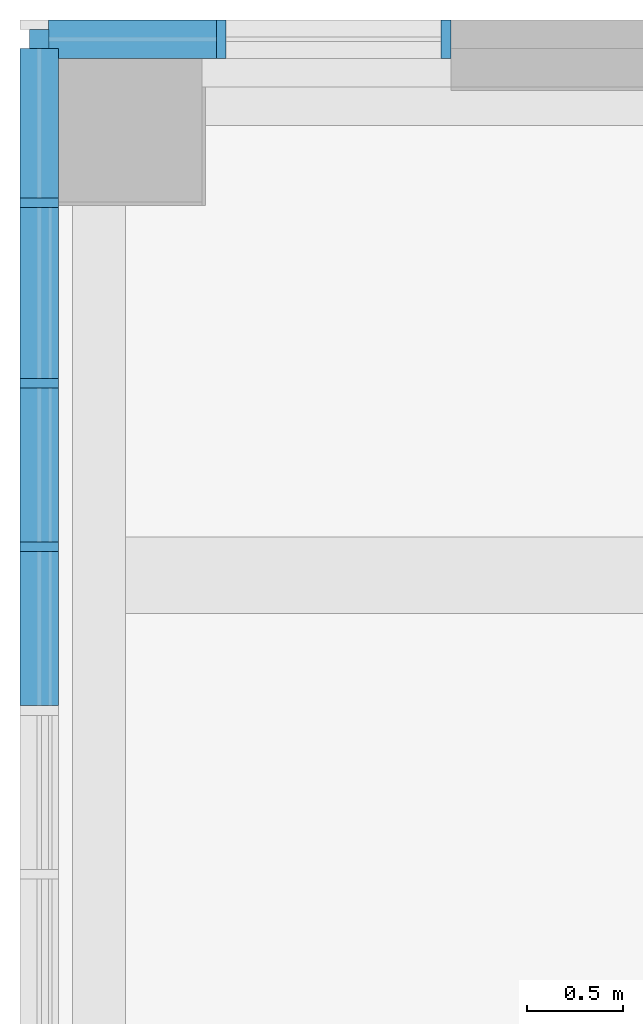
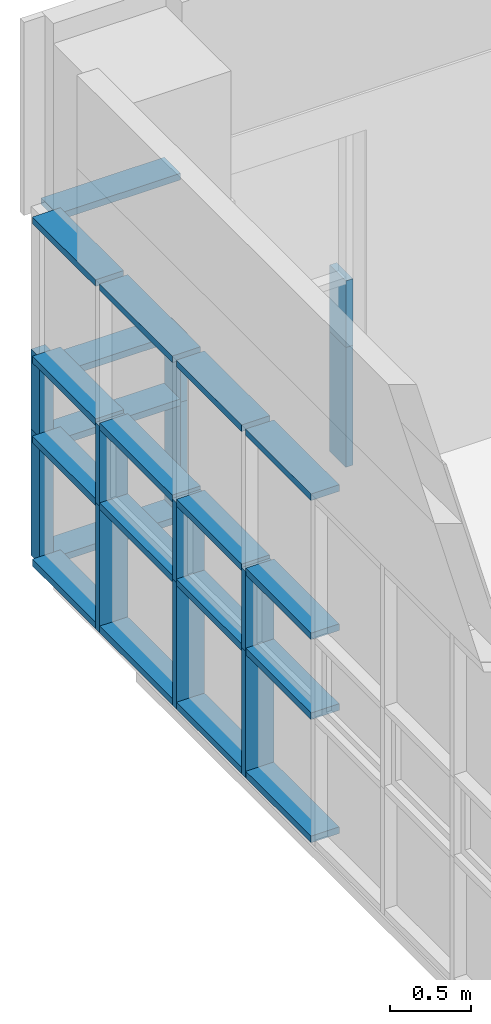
# One storey, part 27 of 76: 32 members, 2 elements without a shape of their own.
"""IFC2X3 building model written with IfcOpenShell, lengths in millimetres."""

from ifc_helpers import new_model, entity, si_unit, converted_unit, derived_unit, direction, frame, origin, origin_2d_with_axis, place, context, subcontext, project, spatial, rectangle, extrude, source, transform, mapped, material, type_object, type_shapes, element, aggregate, save


model = new_model("IFC2X3")

# Units and contexts
model_context = context("Model", 3, precision=0.01, world=origin(), true_north=direction((6.123031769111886e-17, 1.0)))
body_context = subcontext(model_context, "Body", "Model", "MODEL_VIEW")
ifc_project = project(units=[si_unit("LENGTHUNIT", "METRE", prefix="MILLI"), si_unit("AREAUNIT", "SQUARE_METRE"), si_unit("VOLUMEUNIT", "CUBIC_METRE"), converted_unit("PLANEANGLEUNIT", "DEGREE", entity("IfcRatioMeasure", 0.017453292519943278), si_unit("PLANEANGLEUNIT", "RADIAN"), dimensions=[0, 0, 0, 0, 0, 0, 0]), si_unit("MASSUNIT", "GRAM", prefix="KILO"), derived_unit("MASSDENSITYUNIT", [(si_unit("MASSUNIT", "GRAM", prefix="KILO"), 1), (si_unit("LENGTHUNIT", "METRE"), -3)]), derived_unit("MOMENTOFINERTIAUNIT", [(si_unit("LENGTHUNIT", "METRE"), 4)]), si_unit("TIMEUNIT", "SECOND"), si_unit("FREQUENCYUNIT", "HERTZ"), si_unit("THERMODYNAMICTEMPERATUREUNIT", "DEGREE_CELSIUS"), derived_unit("THERMALTRANSMITTANCEUNIT", [(si_unit("MASSUNIT", "GRAM", prefix="KILO"), 1), (si_unit("THERMODYNAMICTEMPERATUREUNIT", "KELVIN"), -1), (si_unit("TIMEUNIT", "SECOND"), -3)]), derived_unit("VOLUMETRICFLOWRATEUNIT", [(si_unit("LENGTHUNIT", "METRE"), 3), (si_unit("TIMEUNIT", "SECOND"), -1)]), derived_unit("MASSFLOWRATEUNIT", [(si_unit("MASSUNIT", "GRAM", prefix="KILO"), 1), (si_unit("TIMEUNIT", "SECOND"), -1)]), derived_unit("ROTATIONALFREQUENCYUNIT", [(si_unit("TIMEUNIT", "SECOND"), -1)]), si_unit("ELECTRICCURRENTUNIT", "AMPERE"), si_unit("ELECTRICVOLTAGEUNIT", "VOLT"), si_unit("POWERUNIT", "WATT"), si_unit("FORCEUNIT", "NEWTON", prefix="KILO"), si_unit("ILLUMINANCEUNIT", "LUX"), si_unit("LUMINOUSFLUXUNIT", "LUMEN"), si_unit("LUMINOUSINTENSITYUNIT", "CANDELA"), derived_unit("USERDEFINED", [(si_unit("MASSUNIT", "GRAM", prefix="KILO"), -1), (si_unit("LENGTHUNIT", "METRE"), -2), (si_unit("TIMEUNIT", "SECOND"), 3), (si_unit("LUMINOUSFLUXUNIT", "LUMEN"), 1)]), derived_unit("SOUNDPOWERUNIT", [(si_unit("MASSUNIT", "GRAM", prefix="KILO"), 1), (si_unit("LENGTHUNIT", "METRE"), 2), (si_unit("TIMEUNIT", "SECOND"), -3)]), derived_unit("SOUNDPRESSUREUNIT", [(si_unit("MASSUNIT", "GRAM", prefix="KILO"), 1), (si_unit("LENGTHUNIT", "METRE"), -1), (si_unit("TIMEUNIT", "SECOND"), -2)]), derived_unit("LINEARVELOCITYUNIT", [(si_unit("LENGTHUNIT", "METRE"), 1), (si_unit("TIMEUNIT", "SECOND"), -1)]), si_unit("PRESSUREUNIT", "PASCAL"), derived_unit("USERDEFINED", [(si_unit("LENGTHUNIT", "METRE"), -2), (si_unit("MASSUNIT", "GRAM", prefix="KILO"), 1), (si_unit("TIMEUNIT", "SECOND"), -2)]), derived_unit("LINEARFORCEUNIT", [(si_unit("MASSUNIT", "GRAM", prefix="KILO"), 1), (si_unit("LENGTHUNIT", "METRE"), 1), (si_unit("TIMEUNIT", "SECOND"), -2), (si_unit("LENGTHUNIT", "METRE"), -1)]), derived_unit("PLANARFORCEUNIT", [(si_unit("MASSUNIT", "GRAM", prefix="KILO"), 1), (si_unit("LENGTHUNIT", "METRE"), 1), (si_unit("TIMEUNIT", "SECOND"), -2), (si_unit("LENGTHUNIT", "METRE"), -2)])], contexts=[model_context])

# Site, building, storey
site_placement = place(None, frame((-14167.972527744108, -657.2125860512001, 0.0)))
site = spatial("IfcSite", under=ifc_project, at=site_placement, Name="Default", CompositionType="ELEMENT")
building_placement = place(site_placement, origin())
building = spatial("IfcBuilding", under=site, at=building_placement, Name="Sample Building", CompositionType="ELEMENT")
storey_placement = place(building_placement, frame((0.0, 0.0, 9300.0)))
storey = spatial("IfcBuildingStorey", under=building, at=storey_placement, Name="지상 3층", CompositionType="ELEMENT", Elevation=9300.000000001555)

# Curtain wall, members
curtain_wall_type = type_object("IfcCurtainWallType", Name="커튼월:CW112-스테인리스 스틸 커튼월", PredefinedType="NOTDEFINED")
curtain_wall_1_placement = place(storey_placement, frame((0.0, 0.0, -9300.0)))
curtain_wall_1 = element("IfcCurtainWall", 1, at=curtain_wall_1_placement, inside=storey, type_object=curtain_wall_type, Name="커튼월:CW112-스테인리스 스틸 커튼월", ObjectType="커튼월:CW112-스테인리스 스틸 커튼월")
ifc_material = material(Name="<Unnamed>")
member_type_1 = type_object("IfcMemberType", Name="직사각형 멀리언:CW200-직사각형 멀리언 50x200mm", PredefinedType="MULLION", material=ifc_material)
shared_shape_1 = source(origin(), body_context, "Body", "SweptSolid", [
    extrude(rectangle(XDim=200.0, YDim=50.0, at=origin_2d_with_axis()), frame((0.0, 0.0, -600.0), z_axis=(0.0, 0.0, 1.0), x_axis=(0.0, -1.0, 0.0)), (0.0, 0.0, 1.0), 600.0),
])
type_shapes(member_type_1, [shared_shape_1])
member_1_placement = place(curtain_wall_1_placement, frame((14018.587904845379, 34953.81770709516, 10330.0), z_axis=(0.0, 0.0, -1.0), x_axis=(0.0, -1.0, 0.0)))
member_1 = element("IfcMember", 2, at=member_1_placement, type_object=member_type_1, material=ifc_material, Name="직사각형 멀리언:CW200-직사각형 멀리언 50x200mm", ObjectType="직사각형 멀리언:CW200-직사각형 멀리언 50x200mm", context=body_context, shape_type="MappedRepresentation", body=[
    mapped(shared_shape_1, transform((0.0, 0.0, 0.0), scale=1.0)),
])
member_2_placement = place(curtain_wall_1_placement, frame((14018.587904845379, 34009.81770709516, 10330.0), z_axis=(0.0, 0.0, -1.0), x_axis=(0.0, -1.0, 0.0)))
member_2 = element("IfcMember", 3, at=member_2_placement, type_object=member_type_1, material=ifc_material, Name="직사각형 멀리언:CW200-직사각형 멀리언 50x200mm", ObjectType="직사각형 멀리언:CW200-직사각형 멀리언 50x200mm", context=body_context, shape_type="MappedRepresentation", body=[
    mapped(shared_shape_1, transform((0.0, 0.0, 0.0), scale=1.0)),
])
member_3_placement = place(curtain_wall_1_placement, frame((14018.587904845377, 33155.81770709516, 10330.0), z_axis=(0.0, 0.0, -1.0), x_axis=(0.0, -1.0, 0.0)))
member_3 = element("IfcMember", 4, at=member_3_placement, type_object=member_type_1, material=ifc_material, Name="직사각형 멀리언:CW200-직사각형 멀리언 50x200mm", ObjectType="직사각형 멀리언:CW200-직사각형 멀리언 50x200mm", context=body_context, shape_type="MappedRepresentation", body=[
    mapped(shared_shape_1, transform((0.0, 0.0, 0.0), scale=1.0)),
])

curtain_wall_2_placement = place(storey_placement, frame((0.0, 0.0, -9300.0)))
curtain_wall_2 = element("IfcCurtainWall", 5, at=curtain_wall_2_placement, inside=storey, type_object=curtain_wall_type, Name="커튼월:CW112-스테인리스 스틸 커튼월", ObjectType="커튼월:CW112-스테인리스 스틸 커튼월")
member_type_2 = type_object("IfcMemberType", Name="직사각형 멀리언:CW200-직사각형 멀리언 50x200mm", PredefinedType="MULLION", material=ifc_material)
shared_shape_2 = source(origin(), body_context, "Body", "SweptSolid", [
    extrude(rectangle(XDim=200.0, YDim=50.0, at=origin_2d_with_axis()), frame((-25.0, 0.0, -874.6836271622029), z_axis=(0.0, 0.0, 1.0), x_axis=(0.0, -1.0, 0.0)), (0.0, 0.0, 1.0), 874.6836271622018),
])
type_shapes(member_type_2, [shared_shape_2])
member_4_placement = place(curtain_wall_2_placement, frame((14067.972454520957, 35807.1622951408, 9380.0), z_axis=(-1.0, 0.0, 0.0), x_axis=(0.0, 0.0, -1.0)))
member_4 = element("IfcMember", 6, at=member_4_placement, type_object=member_type_2, material=ifc_material, Name="직사각형 멀리언:CW200-직사각형 멀리언 50x200mm", ObjectType="직사각형 멀리언:CW200-직사각형 멀리언 50x200mm", context=body_context, shape_type="MappedRepresentation", body=[
    mapped(shared_shape_2, transform((0.0, 0.0, 0.0), scale=1.0)),
])
member_type_3 = type_object("IfcMemberType", Name="직사각형 멀리언:CW200-직사각형 멀리언 50x200mm", PredefinedType="MULLION", material=ifc_material)
shared_shape_3 = source(origin(), body_context, "Body", "SweptSolid", [
    extrude(rectangle(XDim=200.0, YDim=50.0, at=origin_2d_with_axis()), frame((-25.0, 0.0, -900.0), z_axis=(0.0, 0.0, 1.0), x_axis=(0.0, -1.0, 0.0)), (0.0, 0.0, 1.0), 900.0000000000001),
])
type_shapes(member_type_3, [shared_shape_3])
member_5_placement = place(curtain_wall_2_placement, frame((16167.339654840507, 35807.16229514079, 9380.0), z_axis=(0.0, 0.0, -1.0), x_axis=(1.0, 0.0, 0.0)))
member_5 = element("IfcMember", 7, at=member_5_placement, type_object=member_type_3, material=ifc_material, Name="직사각형 멀리언:CW200-직사각형 멀리언 50x200mm", ObjectType="직사각형 멀리언:CW200-직사각형 멀리언 50x200mm", context=body_context, shape_type="MappedRepresentation", body=[
    mapped(shared_shape_3, transform((0.0, 0.0, 0.0), scale=1.0)),
])
member_type_4 = type_object("IfcMemberType", Name="직사각형 멀리언:CW200-직사각형 멀리언 50x200mm", PredefinedType="MULLION", material=ifc_material)
shared_shape_4 = source(origin(), body_context, "Body", "SweptSolid", [
    extrude(rectangle(XDim=200.0, YDim=50.0, at=origin_2d_with_axis()), frame((0.0, 0.0, -874.6836271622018), z_axis=(0.0, 0.0, 1.0), x_axis=(0.0, -1.0, 0.0)), (0.0, 0.0, 1.0), 874.683627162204),
])
type_shapes(member_type_4, [shared_shape_4])
member_6_placement = place(curtain_wall_2_placement, frame((14942.656081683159, 35807.1622951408, 10780.0), z_axis=(1.0, 0.0, 0.0), x_axis=(0.0, 0.0, 1.0)))
member_6 = element("IfcMember", 8, at=member_6_placement, type_object=member_type_4, material=ifc_material, Name="직사각형 멀리언:CW200-직사각형 멀리언 50x200mm", ObjectType="직사각형 멀리언:CW200-직사각형 멀리언 50x200mm", context=body_context, shape_type="MappedRepresentation", body=[
    mapped(shared_shape_4, transform((0.0, 0.0, 0.0), scale=1.0)),
])
member_7_placement = place(curtain_wall_2_placement, frame((14942.656081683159, 35807.1622951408, 10280.0), z_axis=(1.0, 0.0, 0.0), x_axis=(0.0, 0.0, 1.0)))
member_7 = element("IfcMember", 9, at=member_7_placement, type_object=member_type_4, material=ifc_material, Name="직사각형 멀리언:CW200-직사각형 멀리언 50x200mm", ObjectType="직사각형 멀리언:CW200-직사각형 멀리언 50x200mm", context=body_context, shape_type="MappedRepresentation", body=[
    mapped(shared_shape_4, transform((0.0, 0.0, 0.0), scale=1.0)),
])
member_type_5 = type_object("IfcMemberType", Name="직사각형 멀리언:CW200-직사각형 멀리언 50x200mm", PredefinedType="MULLION", material=ifc_material)
shared_shape_5 = source(origin(), body_context, "Body", "SweptSolid", [
    extrude(rectangle(XDim=200.0, YDim=50.0, at=origin_2d_with_axis()), frame((-25.0, 0.0, -500.0), z_axis=(0.0, 0.0, 1.0), x_axis=(0.0, -1.0, 0.0)), (0.0, 0.0, 1.0), 499.99999999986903),
])
type_shapes(member_type_5, [shared_shape_5])
member_8_placement = place(curtain_wall_2_placement, frame((16167.339654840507, 35807.16229514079, 10280.0), z_axis=(0.0, 0.0, -1.0), x_axis=(1.0, 0.0, 0.0)))
member_8 = element("IfcMember", 10, at=member_8_placement, type_object=member_type_5, material=ifc_material, Name="직사각형 멀리언:CW200-직사각형 멀리언 50x200mm", ObjectType="직사각형 멀리언:CW200-직사각형 멀리언 50x200mm", context=body_context, shape_type="MappedRepresentation", body=[
    mapped(shared_shape_5, transform((0.0, 0.0, 0.0), scale=1.0)),
])
member_type_6 = type_object("IfcMemberType", Name="직사각형 멀리언:CW200-직사각형 멀리언 50x200mm", PredefinedType="MULLION", material=ifc_material)
shared_shape_6 = source(origin(), body_context, "Body", "SweptSolid", [
    extrude(rectangle(XDim=200.0, YDim=50.0, at=origin_2d_with_axis()), frame((-25.0, 0.0, -874.6836271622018), z_axis=(0.0, 0.0, 1.0), x_axis=(0.0, -1.0, 0.0)), (0.0, 0.0, 1.0), 874.683627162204),
])
type_shapes(member_type_6, [shared_shape_6])
member_9_placement = place(curtain_wall_2_placement, frame((14942.656081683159, 35807.1622951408, 12000.0), z_axis=(1.0, 0.0, 0.0), x_axis=(0.0, 0.0, 1.0)))
member_9 = element("IfcMember", 11, at=member_9_placement, type_object=member_type_6, material=ifc_material, Name="직사각형 멀리언:CW200-직사각형 멀리언 50x200mm", ObjectType="직사각형 멀리언:CW200-직사각형 멀리언 50x200mm", context=body_context, shape_type="MappedRepresentation", body=[
    mapped(shared_shape_6, transform((0.0, 0.0, 0.0), scale=1.0)),
])
member_type_7 = type_object("IfcMemberType", Name="직사각형 멀리언:CW200-직사각형 멀리언 50x200mm", PredefinedType="MULLION", material=ifc_material)
shared_shape_7 = source(origin(), body_context, "Body", "SweptSolid", [
    extrude(rectangle(XDim=200.0, YDim=50.0, at=origin_2d_with_axis()), frame((0.0, 0.0, -900.0), z_axis=(0.0, 0.0, 1.0), x_axis=(0.0, -1.0, 0.0)), (0.0, 0.0, 1.0), 900.0000000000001),
])
type_shapes(member_type_7, [shared_shape_7])
member_10_placement = place(curtain_wall_2_placement, frame((14967.656081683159, 35807.1622951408, 9380.0), z_axis=(0.0, 0.0, -1.0), x_axis=(1.0, 0.0, 0.0)))
member_10 = element("IfcMember", 12, at=member_10_placement, type_object=member_type_7, material=ifc_material, Name="직사각형 멀리언:CW200-직사각형 멀리언 50x200mm", ObjectType="직사각형 멀리언:CW200-직사각형 멀리언 50x200mm", context=body_context, shape_type="MappedRepresentation", body=[
    mapped(shared_shape_7, transform((0.0, 0.0, 0.0), scale=1.0)),
])
member_type_8 = type_object("IfcMemberType", Name="직사각형 멀리언:CW200-직사각형 멀리언 50x200mm", PredefinedType="MULLION", material=ifc_material)
shared_shape_8 = source(origin(), body_context, "Body", "SweptSolid", [
    extrude(rectangle(XDim=200.0, YDim=50.0, at=origin_2d_with_axis()), frame((0.0, 0.0, -500.0), z_axis=(0.0, 0.0, 1.0), x_axis=(0.0, -1.0, 0.0)), (0.0, 0.0, 1.0), 499.99999999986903),
])
type_shapes(member_type_8, [shared_shape_8])
member_11_placement = place(curtain_wall_2_placement, frame((14967.656081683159, 35807.1622951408, 10280.0), z_axis=(0.0, 0.0, -1.0), x_axis=(1.0, 0.0, 0.0)))
member_11 = element("IfcMember", 13, at=member_11_placement, type_object=member_type_8, material=ifc_material, Name="직사각형 멀리언:CW200-직사각형 멀리언 50x200mm", ObjectType="직사각형 멀리언:CW200-직사각형 멀리언 50x200mm", context=body_context, shape_type="MappedRepresentation", body=[
    mapped(shared_shape_8, transform((0.0, 0.0, 0.0), scale=1.0)),
])
aggregate(curtain_wall_2, [member_4, member_5, member_6, member_8, member_7, member_9, member_10, member_11])

# Member
member_type_9 = type_object("IfcMemberType", Name="직사각형 멀리언:CW200-직사각형 멀리언 50x200mm", PredefinedType="MULLION", material=ifc_material)
shared_shape_9 = source(origin(), body_context, "Body", "SweptSolid", [
    extrude(rectangle(XDim=200.0, YDim=50.0, at=origin_2d_with_axis()), frame((-25.0, 0.0, -778.6554851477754), z_axis=(0.0, 0.0, 1.0), x_axis=(0.0, -1.0, 0.0)), (0.0, 0.0, 1.0), 778.6554851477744),
])
type_shapes(member_type_9, [shared_shape_9])
member_12_placement = place(curtain_wall_1_placement, frame((14018.58790484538, 35757.473192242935, 9380.0), z_axis=(0.0, 1.0, 0.0), x_axis=(0.0, 0.0, -1.0)))
member_12 = element("IfcMember", 14, at=member_12_placement, type_object=member_type_9, material=ifc_material, Name="직사각형 멀리언:CW200-직사각형 멀리언 50x200mm", ObjectType="직사각형 멀리언:CW200-직사각형 멀리언 50x200mm", context=body_context, shape_type="MappedRepresentation", body=[
    mapped(shared_shape_9, transform((0.0, 0.0, 0.0), scale=1.0)),
])

member_type_10 = type_object("IfcMemberType", Name="직사각형 멀리언:CW200-직사각형 멀리언 100 x 100mm", PredefinedType="MULLION", material=ifc_material)
shared_shape_10 = source(origin(), body_context, "Body", "SweptSolid", [
    extrude(rectangle(XDim=100.00000000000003, YDim=100.0, at=origin_2d_with_axis()), frame((-50.0, 0.0, -600.0), z_axis=(0.0, 0.0, 1.0), x_axis=(0.0, -1.0, 0.0)), (0.0, 0.0, 1.0), 600.0),
])
type_shapes(member_type_10, [shared_shape_10])
member_13_placement = place(curtain_wall_1_placement, frame((14018.58790484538, 35857.47319224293, 10930.0), z_axis=(0.0, 0.0, 1.0), x_axis=(0.0, 1.0, 0.0)))
member_13 = element("IfcMember", 15, at=member_13_placement, type_object=member_type_10, material=ifc_material, Name="직사각형 멀리언:CW200-직사각형 멀리언 100 x 100mm", ObjectType="직사각형 멀리언:CW200-직사각형 멀리언 100 x 100mm", context=body_context, shape_type="MappedRepresentation", body=[
    mapped(shared_shape_10, transform((0.0, 0.0, 0.0), scale=1.0)),
])

member_type_11 = type_object("IfcMemberType", Name="직사각형 멀리언:CW200-직사각형 멀리언 50x200mm", PredefinedType="MULLION", material=ifc_material)
shared_shape_11 = source(origin(), body_context, "Body", "SweptSolid", [
    extrude(rectangle(XDim=200.0, YDim=50.0, at=origin_2d_with_axis()), frame((0.0, 0.0, -778.6554851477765), z_axis=(0.0, 0.0, 1.0), x_axis=(0.0, -1.0, 0.0)), (0.0, 0.0, 1.0), 778.6554851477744),
])
type_shapes(member_type_11, [shared_shape_11])
member_14_placement = place(curtain_wall_1_placement, frame((14018.587904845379, 34978.81770709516, 10930.0), z_axis=(0.0, -1.0, 0.0), x_axis=(0.0, 0.0, 1.0)))
member_14 = element("IfcMember", 16, at=member_14_placement, type_object=member_type_11, material=ifc_material, Name="직사각형 멀리언:CW200-직사각형 멀리언 50x200mm", ObjectType="직사각형 멀리언:CW200-직사각형 멀리언 50x200mm", context=body_context, shape_type="MappedRepresentation", body=[
    mapped(shared_shape_11, transform((0.0, 0.0, 0.0), scale=1.0)),
])

member_15_placement = place(curtain_wall_1_placement, frame((14018.587904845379, 34978.81770709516, 10330.0), z_axis=(0.0, -1.0, 0.0), x_axis=(0.0, 0.0, 1.0)))
member_15 = element("IfcMember", 17, at=member_15_placement, type_object=member_type_11, material=ifc_material, Name="직사각형 멀리언:CW200-직사각형 멀리언 50x200mm", ObjectType="직사각형 멀리언:CW200-직사각형 멀리언 50x200mm", context=body_context, shape_type="MappedRepresentation", body=[
    mapped(shared_shape_11, transform((0.0, 0.0, 0.0), scale=1.0)),
])

member_type_12 = type_object("IfcMemberType", Name="직사각형 멀리언:CW200-직사각형 멀리언 100 x 100mm", PredefinedType="MULLION", material=ifc_material)
shared_shape_12 = source(origin(), body_context, "Body", "SweptSolid", [
    extrude(rectangle(XDim=100.00000000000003, YDim=100.0, at=origin_2d_with_axis()), frame((-50.0, 0.0, -950.0), z_axis=(0.0, 0.0, 1.0), x_axis=(0.0, -1.0, 0.0)), (0.0, 0.0, 1.0), 950.0000000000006),
])
type_shapes(member_type_12, [shared_shape_12])
member_16_placement = place(curtain_wall_1_placement, frame((14018.58790484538, 35857.47319224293, 10330.0), z_axis=(0.0, 0.0, 1.0), x_axis=(0.0, 1.0, 0.0)))
member_16 = element("IfcMember", 18, at=member_16_placement, type_object=member_type_12, material=ifc_material, Name="직사각형 멀리언:CW200-직사각형 멀리언 100 x 100mm", ObjectType="직사각형 멀리언:CW200-직사각형 멀리언 100 x 100mm", context=body_context, shape_type="MappedRepresentation", body=[
    mapped(shared_shape_12, transform((0.0, 0.0, 0.0), scale=1.0)),
])

member_type_13 = type_object("IfcMemberType", Name="직사각형 멀리언:CW200-직사각형 멀리언 50x200mm", PredefinedType="MULLION", material=ifc_material)
shared_shape_13 = source(origin(), body_context, "Body", "SweptSolid", [
    extrude(rectangle(XDim=200.0, YDim=50.0, at=origin_2d_with_axis()), frame((-25.0, 0.0, -778.6554851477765), z_axis=(0.0, 0.0, 1.0), x_axis=(0.0, -1.0, 0.0)), (0.0, 0.0, 1.0), 778.6554851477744),
])
type_shapes(member_type_13, [shared_shape_13])
member_17_placement = place(curtain_wall_1_placement, frame((14018.587904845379, 34978.81770709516, 12000.0), z_axis=(0.0, -1.0, 0.0), x_axis=(0.0, 0.0, 1.0)))
member_17 = element("IfcMember", 19, at=member_17_placement, type_object=member_type_13, material=ifc_material, Name="직사각형 멀리언:CW200-직사각형 멀리언 50x200mm", ObjectType="직사각형 멀리언:CW200-직사각형 멀리언 50x200mm", context=body_context, shape_type="MappedRepresentation", body=[
    mapped(shared_shape_13, transform((0.0, 0.0, 0.0), scale=1.0)),
])

member_type_14 = type_object("IfcMemberType", Name="직사각형 멀리언:CW200-직사각형 멀리언 50x200mm", PredefinedType="MULLION", material=ifc_material)
shared_shape_14 = source(origin(), body_context, "Body", "SweptSolid", [
    extrude(rectangle(XDim=200.0, YDim=50.0, at=origin_2d_with_axis()), frame((-25.0, 0.0, -894.0), z_axis=(0.0, 0.0, 1.0), x_axis=(0.0, -1.0, 0.0)), (0.0, 0.0, 1.0), 894.0000000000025),
])
type_shapes(member_type_14, [shared_shape_14])
member_18_placement = place(curtain_wall_1_placement, frame((14018.587904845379, 34928.81770709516, 9380.0), z_axis=(0.0, 1.0, 0.0), x_axis=(0.0, 0.0, -1.0)))
member_18 = element("IfcMember", 20, at=member_18_placement, type_object=member_type_14, material=ifc_material, Name="직사각형 멀리언:CW200-직사각형 멀리언 50x200mm", ObjectType="직사각형 멀리언:CW200-직사각형 멀리언 50x200mm", context=body_context, shape_type="MappedRepresentation", body=[
    mapped(shared_shape_14, transform((0.0, 0.0, 0.0), scale=1.0)),
])

member_type_15 = type_object("IfcMemberType", Name="직사각형 멀리언:CW200-직사각형 멀리언 50x200mm", PredefinedType="MULLION", material=ifc_material)
shared_shape_15 = source(origin(), body_context, "Body", "SweptSolid", [
    extrude(rectangle(XDim=200.0, YDim=50.0, at=origin_2d_with_axis()), frame((0.0, 0.0, -894.0), z_axis=(0.0, 0.0, 1.0), x_axis=(0.0, -1.0, 0.0)), (0.0, 0.0, 1.0), 894.0000000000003),
])
type_shapes(member_type_15, [shared_shape_15])
member_19_placement = place(curtain_wall_1_placement, frame((14018.587904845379, 34034.81770709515, 10330.0), z_axis=(0.0, -1.0, 0.0), x_axis=(0.0, 0.0, 1.0)))
member_19 = element("IfcMember", 21, at=member_19_placement, type_object=member_type_15, material=ifc_material, Name="직사각형 멀리언:CW200-직사각형 멀리언 50x200mm", ObjectType="직사각형 멀리언:CW200-직사각형 멀리언 50x200mm", context=body_context, shape_type="MappedRepresentation", body=[
    mapped(shared_shape_15, transform((0.0, 0.0, 0.0), scale=1.0)),
])

member_20_placement = place(curtain_wall_1_placement, frame((14018.587904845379, 34034.81770709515, 10930.0), z_axis=(0.0, -1.0, 0.0), x_axis=(0.0, 0.0, 1.0)))
member_20 = element("IfcMember", 22, at=member_20_placement, type_object=member_type_15, material=ifc_material, Name="직사각형 멀리언:CW200-직사각형 멀리언 50x200mm", ObjectType="직사각형 멀리언:CW200-직사각형 멀리언 50x200mm", context=body_context, shape_type="MappedRepresentation", body=[
    mapped(shared_shape_15, transform((0.0, 0.0, 0.0), scale=1.0)),
])

member_type_16 = type_object("IfcMemberType", Name="직사각형 멀리언:CW200-직사각형 멀리언 50x200mm", PredefinedType="MULLION", material=ifc_material)
shared_shape_16 = source(origin(), body_context, "Body", "SweptSolid", [
    extrude(rectangle(XDim=200.0, YDim=50.0, at=origin_2d_with_axis()), frame((0.0, 0.0, -950.0), z_axis=(0.0, 0.0, 1.0), x_axis=(0.0, -1.0, 0.0)), (0.0, 0.0, 1.0), 949.9999999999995),
])
type_shapes(member_type_16, [shared_shape_16])
member_21_placement = place(curtain_wall_1_placement, frame((14018.587904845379, 34953.81770709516, 9380.0), z_axis=(0.0, 0.0, -1.0), x_axis=(0.0, -1.0, 0.0)))
member_21 = element("IfcMember", 23, at=member_21_placement, type_object=member_type_16, material=ifc_material, Name="직사각형 멀리언:CW200-직사각형 멀리언 50x200mm", ObjectType="직사각형 멀리언:CW200-직사각형 멀리언 50x200mm", context=body_context, shape_type="MappedRepresentation", body=[
    mapped(shared_shape_16, transform((0.0, 0.0, 0.0), scale=1.0)),
])

member_22_placement = place(curtain_wall_1_placement, frame((14018.587904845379, 34009.81770709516, 9380.0), z_axis=(0.0, 0.0, -1.0), x_axis=(0.0, -1.0, 0.0)))
member_22 = element("IfcMember", 24, at=member_22_placement, type_object=member_type_16, material=ifc_material, Name="직사각형 멀리언:CW200-직사각형 멀리언 50x200mm", ObjectType="직사각형 멀리언:CW200-직사각형 멀리언 50x200mm", context=body_context, shape_type="MappedRepresentation", body=[
    mapped(shared_shape_16, transform((0.0, 0.0, 0.0), scale=1.0)),
])

member_23_placement = place(curtain_wall_1_placement, frame((14018.587904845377, 33155.81770709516, 9380.0), z_axis=(0.0, 0.0, -1.0), x_axis=(0.0, -1.0, 0.0)))
member_23 = element("IfcMember", 25, at=member_23_placement, type_object=member_type_16, material=ifc_material, Name="직사각형 멀리언:CW200-직사각형 멀리언 50x200mm", ObjectType="직사각형 멀리언:CW200-직사각형 멀리언 50x200mm", context=body_context, shape_type="MappedRepresentation", body=[
    mapped(shared_shape_16, transform((0.0, 0.0, 0.0), scale=1.0)),
])

member_type_17 = type_object("IfcMemberType", Name="직사각형 멀리언:CW200-직사각형 멀리언 50x200mm", PredefinedType="MULLION", material=ifc_material)
shared_shape_17 = source(origin(), body_context, "Body", "SweptSolid", [
    extrude(rectangle(XDim=200.0, YDim=50.0, at=origin_2d_with_axis()), frame((-25.0, 0.0, -894.0), z_axis=(0.0, 0.0, 1.0), x_axis=(0.0, -1.0, 0.0)), (0.0, 0.0, 1.0), 894.0000000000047),
])
type_shapes(member_type_17, [shared_shape_17])
member_24_placement = place(curtain_wall_1_placement, frame((14018.587904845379, 34034.81770709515, 12000.0), z_axis=(0.0, -1.0, 0.0), x_axis=(0.0, 0.0, 1.0)))
member_24 = element("IfcMember", 26, at=member_24_placement, type_object=member_type_17, material=ifc_material, Name="직사각형 멀리언:CW200-직사각형 멀리언 50x200mm", ObjectType="직사각형 멀리언:CW200-직사각형 멀리언 50x200mm", context=body_context, shape_type="MappedRepresentation", body=[
    mapped(shared_shape_17, transform((0.0, 0.0, 0.0), scale=1.0)),
])

member_type_18 = type_object("IfcMemberType", Name="직사각형 멀리언:CW200-직사각형 멀리언 50x200mm", PredefinedType="MULLION", material=ifc_material)
shared_shape_18 = source(origin(), body_context, "Body", "SweptSolid", [
    extrude(rectangle(XDim=200.0, YDim=50.0, at=origin_2d_with_axis()), frame((-25.0, 0.0, -804.0), z_axis=(0.0, 0.0, 1.0), x_axis=(0.0, -1.0, 0.0)), (0.0, 0.0, 1.0), 804.0000000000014),
])
type_shapes(member_type_18, [shared_shape_18])
member_25_placement = place(curtain_wall_1_placement, frame((14018.587904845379, 33984.81770709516, 9380.0), z_axis=(0.0, 1.0, 0.0), x_axis=(0.0, 0.0, -1.0)))
member_25 = element("IfcMember", 27, at=member_25_placement, type_object=member_type_18, material=ifc_material, Name="직사각형 멀리언:CW200-직사각형 멀리언 50x200mm", ObjectType="직사각형 멀리언:CW200-직사각형 멀리언 50x200mm", context=body_context, shape_type="MappedRepresentation", body=[
    mapped(shared_shape_18, transform((0.0, 0.0, 0.0), scale=1.0)),
])

member_26_placement = place(curtain_wall_1_placement, frame((14018.587904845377, 33130.81770709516, 9380.0), z_axis=(0.0, 1.0, 0.0), x_axis=(0.0, 0.0, -1.0)))
member_26 = element("IfcMember", 28, at=member_26_placement, type_object=member_type_18, material=ifc_material, Name="직사각형 멀리언:CW200-직사각형 멀리언 50x200mm", ObjectType="직사각형 멀리언:CW200-직사각형 멀리언 50x200mm", context=body_context, shape_type="MappedRepresentation", body=[
    mapped(shared_shape_18, transform((0.0, 0.0, 0.0), scale=1.0)),
])

member_type_19 = type_object("IfcMemberType", Name="직사각형 멀리언:CW200-직사각형 멀리언 50x200mm", PredefinedType="MULLION", material=ifc_material)
shared_shape_19 = source(origin(), body_context, "Body", "SweptSolid", [
    extrude(rectangle(XDim=200.0, YDim=50.0, at=origin_2d_with_axis()), frame((0.0, 0.0, -804.0), z_axis=(0.0, 0.0, 1.0), x_axis=(0.0, -1.0, 0.0)), (0.0, 0.0, 1.0), 803.9999999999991),
])
type_shapes(member_type_19, [shared_shape_19])
member_27_placement = place(curtain_wall_1_placement, frame((14018.587904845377, 33180.81770709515, 10330.0), z_axis=(0.0, -1.0, 0.0), x_axis=(0.0, 0.0, 1.0)))
member_27 = element("IfcMember", 29, at=member_27_placement, type_object=member_type_19, material=ifc_material, Name="직사각형 멀리언:CW200-직사각형 멀리언 50x200mm", ObjectType="직사각형 멀리언:CW200-직사각형 멀리언 50x200mm", context=body_context, shape_type="MappedRepresentation", body=[
    mapped(shared_shape_19, transform((0.0, 0.0, 0.0), scale=1.0)),
])

member_28_placement = place(curtain_wall_1_placement, frame((14018.587904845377, 33180.81770709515, 10930.0), z_axis=(0.0, -1.0, 0.0), x_axis=(0.0, 0.0, 1.0)))
member_28 = element("IfcMember", 30, at=member_28_placement, type_object=member_type_19, material=ifc_material, Name="직사각형 멀리언:CW200-직사각형 멀리언 50x200mm", ObjectType="직사각형 멀리언:CW200-직사각형 멀리언 50x200mm", context=body_context, shape_type="MappedRepresentation", body=[
    mapped(shared_shape_19, transform((0.0, 0.0, 0.0), scale=1.0)),
])

member_29_placement = place(curtain_wall_1_placement, frame((14018.587904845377, 32326.817707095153, 10330.0), z_axis=(0.0, -1.0, 0.0), x_axis=(0.0, 0.0, 1.0)))
member_29 = element("IfcMember", 31, at=member_29_placement, type_object=member_type_19, material=ifc_material, Name="직사각형 멀리언:CW200-직사각형 멀리언 50x200mm", ObjectType="직사각형 멀리언:CW200-직사각형 멀리언 50x200mm", context=body_context, shape_type="MappedRepresentation", body=[
    mapped(shared_shape_19, transform((0.0, 0.0, 0.0), scale=1.0)),
])

member_30_placement = place(curtain_wall_1_placement, frame((14018.587904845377, 32326.817707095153, 10930.0), z_axis=(0.0, -1.0, 0.0), x_axis=(0.0, 0.0, 1.0)))
member_30 = element("IfcMember", 32, at=member_30_placement, type_object=member_type_19, material=ifc_material, Name="직사각형 멀리언:CW200-직사각형 멀리언 50x200mm", ObjectType="직사각형 멀리언:CW200-직사각형 멀리언 50x200mm", context=body_context, shape_type="MappedRepresentation", body=[
    mapped(shared_shape_19, transform((0.0, 0.0, 0.0), scale=1.0)),
])

member_type_20 = type_object("IfcMemberType", Name="직사각형 멀리언:CW200-직사각형 멀리언 50x200mm", PredefinedType="MULLION", material=ifc_material)
shared_shape_20 = source(origin(), body_context, "Body", "SweptSolid", [
    extrude(rectangle(XDim=200.0, YDim=50.0, at=origin_2d_with_axis()), frame((-25.0, 0.0, -804.0), z_axis=(0.0, 0.0, 1.0), x_axis=(0.0, -1.0, 0.0)), (0.0, 0.0, 1.0), 803.9999999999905),
])
type_shapes(member_type_20, [shared_shape_20])
member_31_placement = place(curtain_wall_1_placement, frame((14018.587904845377, 33180.81770709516, 12000.0), z_axis=(0.0, -1.0, 0.0), x_axis=(0.0, 0.0, 1.0)))
member_31 = element("IfcMember", 33, at=member_31_placement, type_object=member_type_20, material=ifc_material, Name="직사각형 멀리언:CW200-직사각형 멀리언 50x200mm", ObjectType="직사각형 멀리언:CW200-직사각형 멀리언 50x200mm", context=body_context, shape_type="MappedRepresentation", body=[
    mapped(shared_shape_20, transform((0.0, 0.0, 0.0), scale=1.0)),
])

member_32_placement = place(curtain_wall_1_placement, frame((14018.587904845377, 32326.817707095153, 12000.0), z_axis=(0.0, -1.0, 0.0), x_axis=(0.0, 0.0, 1.0)))
member_32 = element("IfcMember", 34, at=member_32_placement, type_object=member_type_20, material=ifc_material, Name="직사각형 멀리언:CW200-직사각형 멀리언 50x200mm", ObjectType="직사각형 멀리언:CW200-직사각형 멀리언 50x200mm", context=body_context, shape_type="MappedRepresentation", body=[
    mapped(shared_shape_20, transform((0.0, 0.0, 0.0), scale=1.0)),
])

aggregate(curtain_wall_1, [member_12, member_13, member_14, member_16, member_15, member_17, member_18, member_19, member_20, member_21, member_1, member_24, member_25, member_27, member_28, member_22, member_2, member_31, member_23, member_3, member_32, member_26, member_29, member_30])

save(model, "model.ifc")
